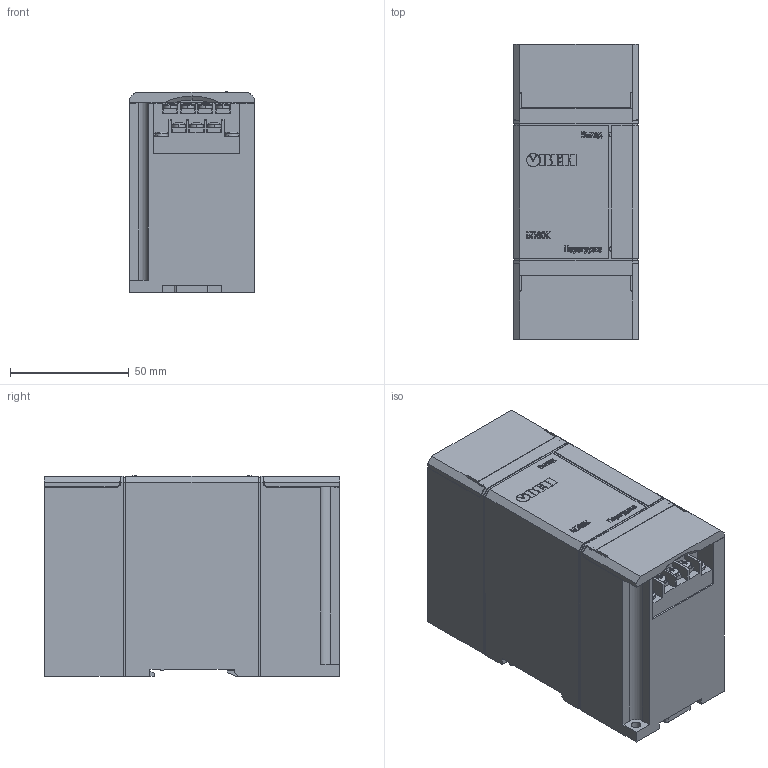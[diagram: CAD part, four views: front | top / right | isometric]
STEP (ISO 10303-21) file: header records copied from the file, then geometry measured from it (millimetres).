
FILE_DESCRIPTION (( 'STEP AP214' ), '1' );
FILE_NAME ('3D ìîäåëü ÁÊ60Ê-24.STEP', '2017-07-24T16:29:19', ( '' ), ( '' ), 'SwSTEP 2.0', 'SolidWorks 2013', '' );
FILE_SCHEMA (( 'AUTOMOTIVE_DESIGN' ));
Length unit declared in the file: millimetre
Products named in the file (9): Êîðïóñ Ä3-210; Ðîçåòêà MX-7; Ôèêñàòîð òèï3; 3D ìîäåëü ÁÊ60Ê-24; slotted pan head screw_din_ISO 1580 - M3 x 8 --- 8N; Êðûøêà Ä3-210; pan head cross recess screw_din_ISO 7045 - M3 x 8 - Z --- 8N; square nut thin grade b_din_Square nut DIN 562 M3 -N
Assembly tree (23 placements, depth 3):
  3D ìîäåëü ÁÊ60Ê-24
    Êîðïóñ Ä3-210
    Ðîçåòêà MX-7  x2
      Ðîçåòêà MX-7
      square nut thin grade b_din_Square nut DIN 562 M3 -N
      pan head cross recess screw_din_ISO 7045 - M3 x 8 - Z --- 8N
      slotted pan head screw_din_ISO 1580 - M3 x 8 --- 8N
    Ôèêñàòîð òèï3
    Êðûøêà Ä3-210  x2
Bounding box: 52.5 x 124.1 x 84.25 mm (x, y, z)
Volume: 516790.4 mm3; surface area: 69007.9 mm2
Topology: 39 solids, 39 shells, 2400 faces, 6645 edges, 4385 vertices
Faces by surface type: plane 1830, cylinder 248, cone 218, torus 72, sphere 28, bspline 4
Entity records: 62591 total; most frequent: CARTESIAN_POINT 9228, ORIENTED_EDGE 9016, DIRECTION 7751, EDGE_CURVE 4508, VECTOR 4245, LINE 4245, VERTEX_POINT 3104, AXIS2_PLACEMENT_3D 1753
